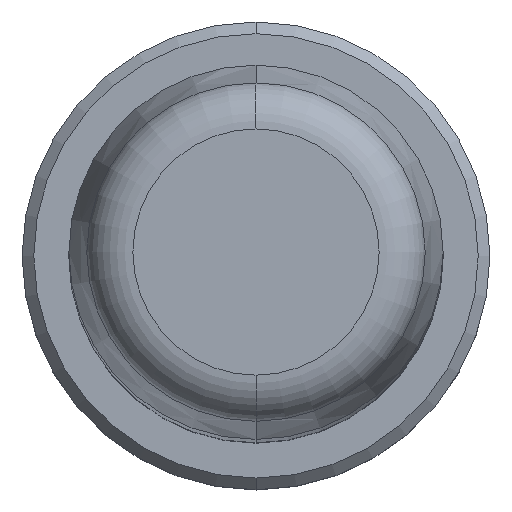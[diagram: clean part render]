
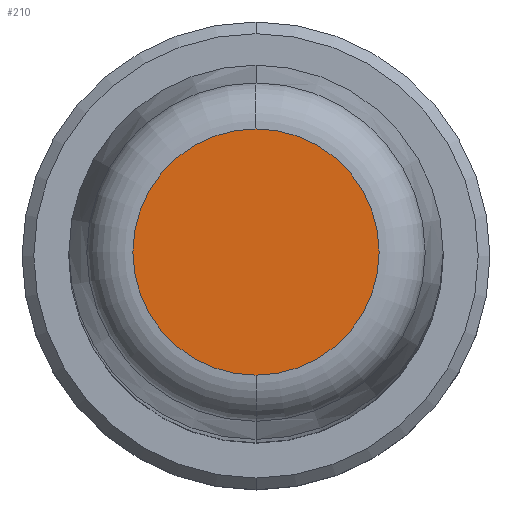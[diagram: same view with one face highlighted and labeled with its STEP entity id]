
A CAD part, top view. The second image highlights one B-rep face of the part: STEP entity #210.
In plain terms, the highlighted planar face has unit normal (0, 0, 1).
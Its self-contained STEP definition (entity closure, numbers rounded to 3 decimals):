
#1=CARTESIAN_POINT('',(0.,0.,100.));
#2=DIRECTION('',(0.,0.,-1.));
#3=DIRECTION('',(0.,-1.,0.));
#4=AXIS2_PLACEMENT_3D('',#1,#2,#3);
#6=CARTESIAN_POINT('',(0.,0.,100.));
#7=DIRECTION('',(0.,0.,-1.));
#8=DIRECTION('',(0.,1.,0.));
#9=AXIS2_PLACEMENT_3D('',#6,#7,#8);
#183=CARTESIAN_POINT('',(0.,-5.264,100.));
#184=CARTESIAN_POINT('',(0.,5.264,100.));
#185=VERTEX_POINT('',#183);
#186=VERTEX_POINT('',#184);
#199=CARTESIAN_POINT('',(0.,0.,100.));
#200=DIRECTION('',(0.,0.,1.));
#201=DIRECTION('',(0.,-1.,0.));
#202=AXIS2_PLACEMENT_3D('',#199,#200,#201);
#203=PLANE('',#202);
#205=ORIENTED_EDGE('',*,*,#204,.T.);
#207=ORIENTED_EDGE('',*,*,#206,.T.);
#208=EDGE_LOOP('',(#205,#207));
#209=FACE_OUTER_BOUND('',#208,.F.);
#210=ADVANCED_FACE('',(#209),#203,.T.);
#5=CIRCLE('',#4,5.264);
#10=CIRCLE('',#9,5.264);
#204=EDGE_CURVE('',#185,#186,#5,.T.);
#206=EDGE_CURVE('',#186,#185,#10,.T.);
